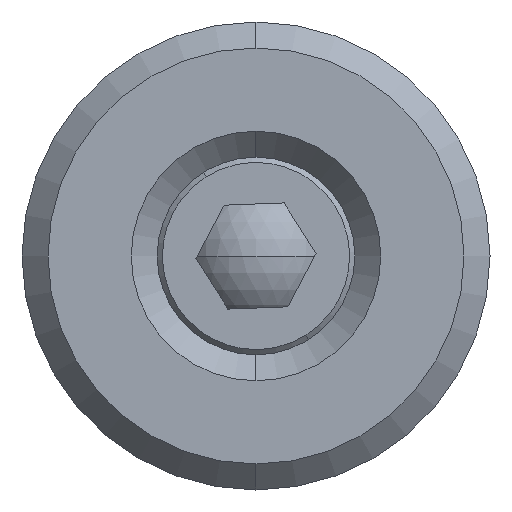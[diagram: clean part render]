
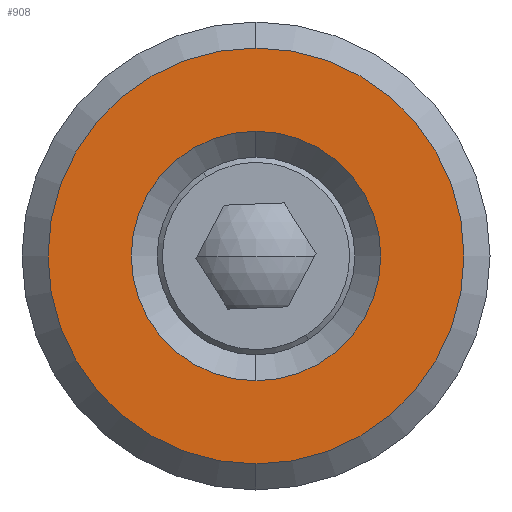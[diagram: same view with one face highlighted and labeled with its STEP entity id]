
A CAD part, left-side view. The second image highlights one B-rep face of the part: STEP entity #908.
In plain terms, the highlighted planar face has unit normal (-1, 0, 0).
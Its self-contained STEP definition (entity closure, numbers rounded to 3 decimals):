
#36 = ORIENTED_EDGE ( 'NONE', *, *, #197, .T. ) ;
#63 = VERTEX_POINT ( 'NONE', #814 ) ;
#118 = FACE_OUTER_BOUND ( 'NONE', #665, .T. ) ;
#119 = DIRECTION ( 'NONE',  ( 1., 0., 0. ) ) ;
#131 = DIRECTION ( 'NONE',  ( 0., 0., -1. ) ) ;
#140 = AXIS2_PLACEMENT_3D ( 'NONE', #334, #119, #131 ) ;
#157 = ORIENTED_EDGE ( 'NONE', *, *, #318, .T. ) ;
#189 = DIRECTION ( 'NONE',  ( 1., 0., 0. ) ) ;
#197 = EDGE_CURVE ( 'NONE', #63, #1267, #1029, .T. ) ;
#264 = EDGE_CURVE ( 'NONE', #1016, #1237, #946, .T. ) ;
#291 = CARTESIAN_POINT ( 'NONE',  ( 0., 0., 0. ) ) ;
#318 = EDGE_CURVE ( 'NONE', #1267, #63, #1179, .T. ) ;
#334 = CARTESIAN_POINT ( 'NONE',  ( 0., 0., 0. ) ) ;
#346 = CARTESIAN_POINT ( 'NONE',  ( 0., 0., 4. ) ) ;
#371 = DIRECTION ( 'NONE',  ( 0., 0., -1. ) ) ;
#381 = DIRECTION ( 'NONE',  ( 0., 0., -1. ) ) ;
#449 = DIRECTION ( 'NONE',  ( -1., 0., 0. ) ) ;
#459 = DIRECTION ( 'NONE',  ( 0., 0., -1. ) ) ;
#474 = DIRECTION ( 'NONE',  ( 1., 0., 0. ) ) ;
#489 = PLANE ( 'NONE',  #987 ) ;
#506 = AXIS2_PLACEMENT_3D ( 'NONE', #684, #474, #371 ) ;
#552 = CARTESIAN_POINT ( 'NONE',  ( 0., 0., 2.4 ) ) ;
#581 = EDGE_LOOP ( 'NONE', ( #157, #36 ) ) ;
#644 = FACE_BOUND ( 'NONE', #581, .T. ) ;
#665 = EDGE_LOOP ( 'NONE', ( #746, #705 ) ) ;
#684 = CARTESIAN_POINT ( 'NONE',  ( 0., 0., 0. ) ) ;
#705 = ORIENTED_EDGE ( 'NONE', *, *, #891, .T. ) ;
#746 = ORIENTED_EDGE ( 'NONE', *, *, #264, .T. ) ;
#812 = CARTESIAN_POINT ( 'NONE',  ( 0., 0., -4. ) ) ;
#814 = CARTESIAN_POINT ( 'NONE',  ( 0., 0., -2.4 ) ) ;
#857 = CARTESIAN_POINT ( 'NONE',  ( 0., 0., 0. ) ) ;
#873 = AXIS2_PLACEMENT_3D ( 'NONE', #857, #449, #459 ) ;
#885 = DIRECTION ( 'NONE',  ( 0., 0., -1. ) ) ;
#891 = EDGE_CURVE ( 'NONE', #1237, #1016, #1205, .T. ) ;
#908 = ADVANCED_FACE ( 'NONE', ( #118, #644 ), #489, .F. ) ;
#912 = AXIS2_PLACEMENT_3D ( 'NONE', #1190, #985, #381 ) ;
#946 = CIRCLE ( 'NONE', #873, 4. ) ;
#985 = DIRECTION ( 'NONE',  ( -1., 0., 0. ) ) ;
#987 = AXIS2_PLACEMENT_3D ( 'NONE', #291, #189, #885 ) ;
#1016 = VERTEX_POINT ( 'NONE', #812 ) ;
#1029 = CIRCLE ( 'NONE', #140, 2.4 ) ;
#1179 = CIRCLE ( 'NONE', #506, 2.4 ) ;
#1190 = CARTESIAN_POINT ( 'NONE',  ( 0., 0., 0. ) ) ;
#1205 = CIRCLE ( 'NONE', #912, 4. ) ;
#1237 = VERTEX_POINT ( 'NONE', #346 ) ;
#1267 = VERTEX_POINT ( 'NONE', #552 ) ;
